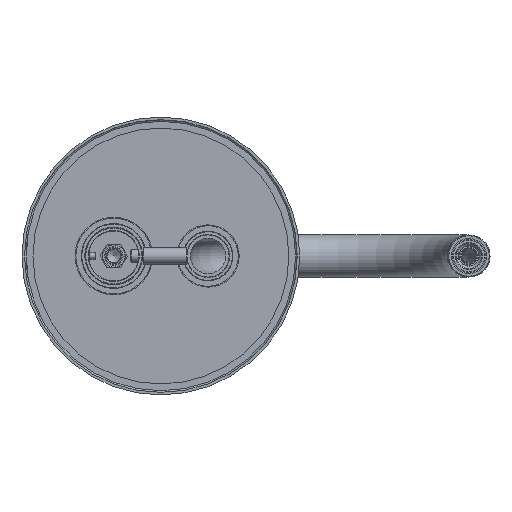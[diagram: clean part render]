
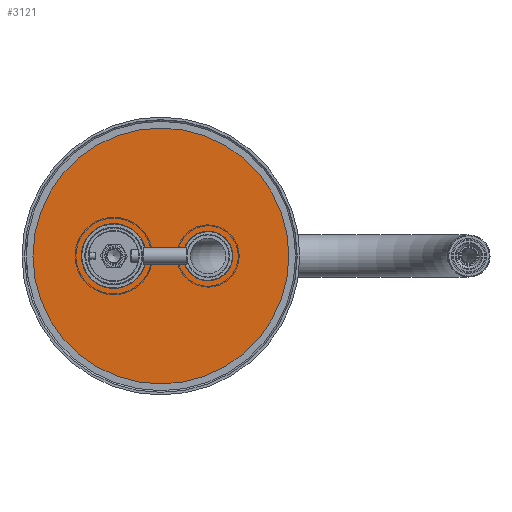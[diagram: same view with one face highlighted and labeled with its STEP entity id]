
A CAD part, front view. The second image highlights one B-rep face of the part: STEP entity #3121.
In plain terms, the highlighted planar face has unit normal (0, -1, 0) as drawn and (0, 1, 0) by its records, which use the part's own axes.
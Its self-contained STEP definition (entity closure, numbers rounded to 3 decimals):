
#263=FACE_BOUND('',#783,.T.);
#264=FACE_BOUND('',#784,.T.);
#355=PLANE('',#3997);
#557=FACE_OUTER_BOUND('',#782,.T.);
#782=EDGE_LOOP('',(#2582));
#783=EDGE_LOOP('',(#2583));
#784=EDGE_LOOP('',(#2584));
#1402=CIRCLE('',#3993,14.75);
#1404=CIRCLE('',#3996,19.25);
#1405=CIRCLE('',#3998,79.5);
#1627=VERTEX_POINT('',#5871);
#1629=VERTEX_POINT('',#5877);
#1630=VERTEX_POINT('',#5881);
#1964=EDGE_CURVE('',#1627,#1627,#1402,.T.);
#1967=EDGE_CURVE('',#1629,#1629,#1404,.T.);
#1968=EDGE_CURVE('',#1630,#1630,#1405,.T.);
#2582=ORIENTED_EDGE('',*,*,#1968,.F.);
#2583=ORIENTED_EDGE('',*,*,#1964,.T.);
#2584=ORIENTED_EDGE('',*,*,#1967,.T.);
#3121=ADVANCED_FACE('',(#557,#263,#264),#355,.T.);
#3993=AXIS2_PLACEMENT_3D('',#5873,#4730,#4731);
#3996=AXIS2_PLACEMENT_3D('',#5879,#4737,#4738);
#3997=AXIS2_PLACEMENT_3D('',#5880,#4739,#4740);
#3998=AXIS2_PLACEMENT_3D('',#5882,#4741,#4742);
#4730=DIRECTION('center_axis',(0.,-1.,0.));
#4731=DIRECTION('ref_axis',(-1.,0.,0.));
#4737=DIRECTION('center_axis',(0.,-1.,0.));
#4738=DIRECTION('ref_axis',(-1.,0.,0.));
#4739=DIRECTION('center_axis',(0.,1.,0.));
#4740=DIRECTION('ref_axis',(0.,0.,1.));
#4741=DIRECTION('center_axis',(0.,-1.,0.));
#4742=DIRECTION('ref_axis',(1.,0.,0.));
#5871=CARTESIAN_POINT('',(14.75,1.5,28.));
#5873=CARTESIAN_POINT('Origin',(0.,1.5,28.));
#5877=CARTESIAN_POINT('',(19.25,1.5,-28.));
#5879=CARTESIAN_POINT('Origin',(0.,1.5,-28.));
#5880=CARTESIAN_POINT('Origin',(39.75,1.5,0.));
#5881=CARTESIAN_POINT('',(0.,1.5,79.5));
#5882=CARTESIAN_POINT('Origin',(0.,1.5,0.));
